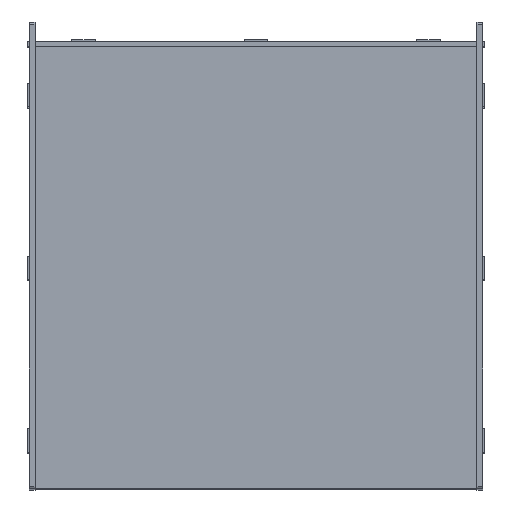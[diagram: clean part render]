
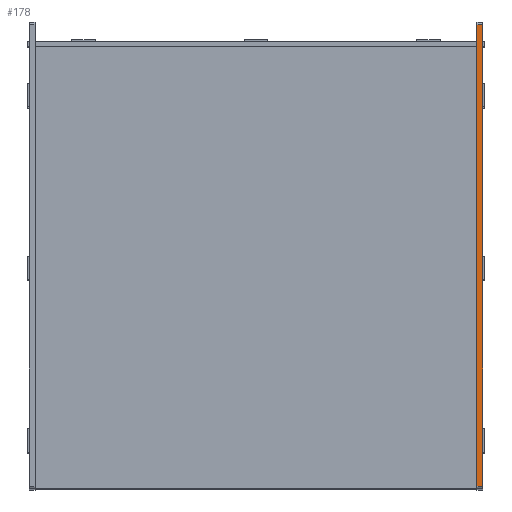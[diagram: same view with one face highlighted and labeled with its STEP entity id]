
A CAD part, top view. The second image highlights one B-rep face of the part: STEP entity #178.
In plain terms, the highlighted planar face has unit normal (0, 0, 1).
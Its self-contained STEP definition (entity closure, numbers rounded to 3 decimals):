
#178=ADVANCED_FACE('',(#324),#4752,.T.);
#324=FACE_OUTER_BOUND('',#502,.T.);
#502=EDGE_LOOP('',(#1432,#1433,#1434,#1435));
#1432=ORIENTED_EDGE('',*,*,#2494,.F.);
#1433=ORIENTED_EDGE('',*,*,#2435,.F.);
#1434=ORIENTED_EDGE('',*,*,#2477,.F.);
#1435=ORIENTED_EDGE('',*,*,#2495,.T.);
#2435=EDGE_CURVE('',#4287,#4280,#3475,.T.);
#2477=EDGE_CURVE('',#4329,#4287,#3516,.T.);
#2494=EDGE_CURVE('',#4280,#4335,#3526,.T.);
#2495=EDGE_CURVE('',#4329,#4335,#3527,.T.);
#3475=B_SPLINE_CURVE_WITH_KNOTS('',1,(#7055,#7056),.UNSPECIFIED.,.F.,.F.,
(2,2),(0.,334.),.UNSPECIFIED.);
#3516=B_SPLINE_CURVE_WITH_KNOTS('',1,(#7140,#7141),.UNSPECIFIED.,.F.,.F.,
(2,2),(0.,4.),.UNSPECIFIED.);
#3526=B_SPLINE_CURVE_WITH_KNOTS('',1,(#7181,#7182),.UNSPECIFIED.,.F.,.F.,
(2,2),(0.,4.),.UNSPECIFIED.);
#3527=B_SPLINE_CURVE_WITH_KNOTS('',1,(#7183,#7184),.UNSPECIFIED.,.F.,.F.,
(2,2),(-334.,0.),.UNSPECIFIED.);
#4280=VERTEX_POINT('',#6953);
#4287=VERTEX_POINT('',#6960);
#4329=VERTEX_POINT('',#7002);
#4335=VERTEX_POINT('',#7008);
#4752=PLANE('',#4982);
#4982=AXIS2_PLACEMENT_3D('',#6952,#5131,$);
#5131=DIRECTION('',(0.,0.,1.));
#6952=CARTESIAN_POINT('',(159.48,-199.52,481.));
#6953=CARTESIAN_POINT('',(164.,-166.,481.));
#6960=CARTESIAN_POINT('',(164.,168.,481.));
#7002=CARTESIAN_POINT('',(160.,168.,481.));
#7008=CARTESIAN_POINT('',(160.,-166.,481.));
#7055=CARTESIAN_POINT('',(164.,168.,481.));
#7056=CARTESIAN_POINT('',(164.,-166.,481.));
#7140=CARTESIAN_POINT('',(160.,168.,481.));
#7141=CARTESIAN_POINT('',(164.,168.,481.));
#7181=CARTESIAN_POINT('',(164.,-166.,481.));
#7182=CARTESIAN_POINT('',(160.,-166.,481.));
#7183=CARTESIAN_POINT('',(160.,168.,481.));
#7184=CARTESIAN_POINT('',(160.,-166.,481.));
